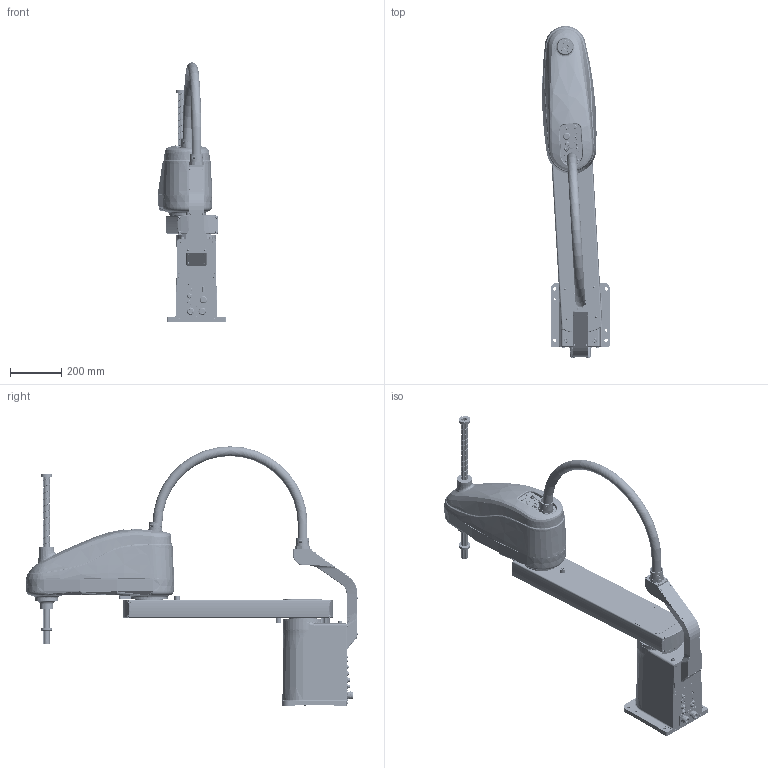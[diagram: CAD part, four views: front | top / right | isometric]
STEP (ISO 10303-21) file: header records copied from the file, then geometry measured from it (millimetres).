
FILE_DESCRIPTION (( 'STEP AP203' ), '1' );
FILE_NAME ('CRP-RS10-20Z40.STEP', '2023-04-13T09:23:46', ( '8618040356960' ), ( '' ), 'SwSTEP 2.0', 'SolidWorks 2021', '' );
FILE_SCHEMA (( 'CONFIG_CONTROL_DESIGN' ));
Products named in the file (6): 奪盄婦; CRP-RS10-20Z40; RS1020-02; RS1020-03 ; RS1020-01; RS1020-04 
Assembly tree (5 placements, depth 2):
  CRP-RS10-20Z40
    RS1020-01
    RS1020-02
    RS1020-03 
    RS1020-04 
    奪盄婦
Bounding box: 264.49 x 1292.02 x 1009.7 mm (x, y, z)
Volume: 44772620.9 mm3; surface area: 2107500.8 mm2
Topology: 61 solids, 131 shells, 6546 faces, 16162 edges, 10071 vertices
Faces by surface type: plane 2615, cylinder 2190, cone 848, bspline 619, torus 220, sphere 54
Entity records: 268370 total; most frequent: CARTESIAN_POINT 117466, ORIENTED_EDGE 31788, DIRECTION 30460, EDGE_CURVE 15894, AXIS2_PLACEMENT_3D 11636, VERTEX_POINT 10049, EDGE_LOOP 7355, LINE 7188
